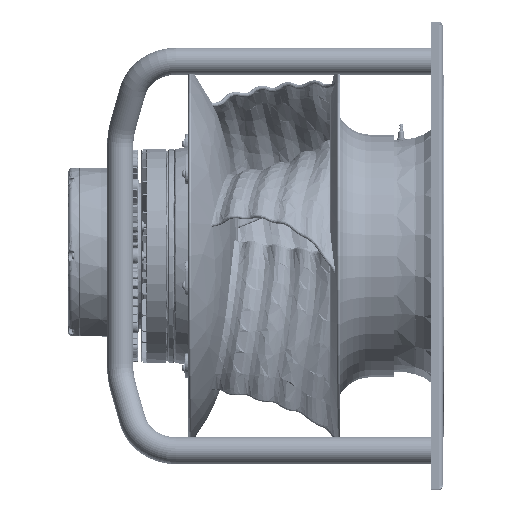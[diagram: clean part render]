
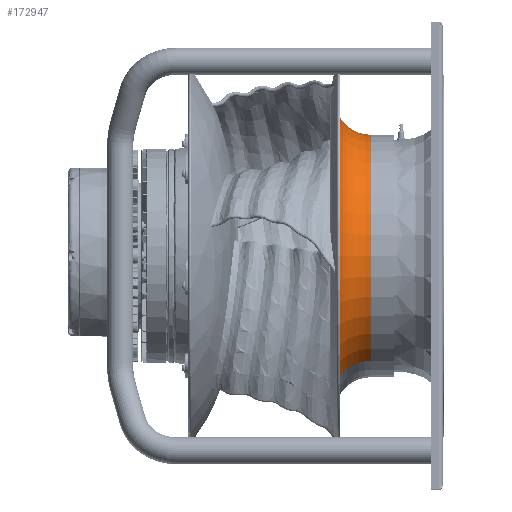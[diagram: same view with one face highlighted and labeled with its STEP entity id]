
A CAD part, top view. The second image highlights one B-rep face of the part: STEP entity #172947.
In plain terms, the highlighted toroidal (fillet/blend) face has major radius 203.435 mm and minor radius 47.785 mm.
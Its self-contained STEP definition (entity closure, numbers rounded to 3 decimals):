
#21328=CARTESIAN_POINT('',(201.999,0.,0.));
#21329=DIRECTION('',(1.,0.,0.));
#21330=DIRECTION('',(0.,0.866,-0.5));
#21331=AXIS2_PLACEMENT_3D('',#21328,#21329,#21330);
#21715=CARTESIAN_POINT('',(249.075,0.,0.));
#21716=DIRECTION('',(1.,0.,0.));
#21717=DIRECTION('',(0.,0.866,-0.5));
#21718=AXIS2_PLACEMENT_3D('',#21715,#21716,#21717);
#21720=CARTESIAN_POINT('',(249.075,176.18,
-101.717));
#21721=DIRECTION('',(0.,-0.5,-0.866));
#21722=DIRECTION('',(0.,-0.866,0.5));
#21723=AXIS2_PLACEMENT_3D('',#21720,#21721,#21722);
#21725=CARTESIAN_POINT('',(249.075,-176.18,
101.717));
#21726=DIRECTION('',(0.,0.5,0.866));
#21727=DIRECTION('',(0.,0.866,-0.5));
#21728=AXIS2_PLACEMENT_3D('',#21725,#21726,#21727);
#127239=CARTESIAN_POINT('',(249.075,134.797,-77.825));
#127240=CARTESIAN_POINT('',(201.999,183.28,
-105.817));
#127241=VERTEX_POINT('',#127239);
#127242=VERTEX_POINT('',#127240);
#127259=CARTESIAN_POINT('',(249.075,-134.797,77.825));
#127260=CARTESIAN_POINT('',(201.999,-183.28,
105.817));
#127261=VERTEX_POINT('',#127259);
#127262=VERTEX_POINT('',#127260);
#172933=CARTESIAN_POINT('',(249.075,0.,0.));
#172934=DIRECTION('',(1.,0.,0.));
#172935=DIRECTION('',(0.,-0.866,0.5));
#172936=AXIS2_PLACEMENT_3D('',#172933,#172934,#172935);
#172937=TOROIDAL_SURFACE('',#172936,203.435,47.785);
#172939=ORIENTED_EDGE('',*,*,#172938,.F.);
#172941=ORIENTED_EDGE('',*,*,#172940,.T.);
#172943=ORIENTED_EDGE('',*,*,#172942,.T.);
#172944=ORIENTED_EDGE('',*,*,#172793,.F.);
#172945=EDGE_LOOP('',(#172939,#172941,#172943,#172944));
#172946=FACE_OUTER_BOUND('',#172945,.F.);
#21332=CIRCLE('',#21331,211.633);
#21719=CIRCLE('',#21718,155.65);
#21724=CIRCLE('',#21723,47.785);
#21729=CIRCLE('',#21728,47.785);
#172793=EDGE_CURVE('',#127242,#127262,#21332,.T.);
#172938=EDGE_CURVE('',#127241,#127242,#21724,.T.);
#172940=EDGE_CURVE('',#127241,#127261,#21719,.T.);
#172942=EDGE_CURVE('',#127261,#127262,#21729,.T.);
#172947=ADVANCED_FACE('',(#172946),#172937,.F.);
